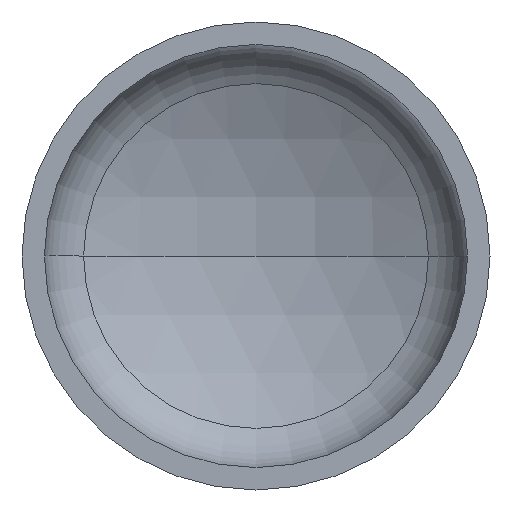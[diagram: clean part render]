
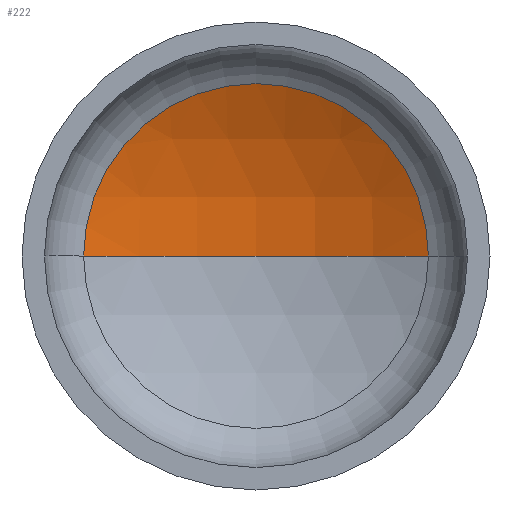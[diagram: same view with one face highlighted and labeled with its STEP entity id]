
A CAD part, front view. The second image highlights one B-rep face of the part: STEP entity #222.
In plain terms, the highlighted spherical face has radius 1600 mm.
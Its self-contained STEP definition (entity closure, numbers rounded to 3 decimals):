
#8 = EDGE_LOOP ( 'NONE', ( #88, #65, #19 ) ) ;
#11 = DIRECTION ( 'NONE',  ( -1., 0., 0. ) ) ;
#19 = ORIENTED_EDGE ( 'NONE', *, *, #152, .T. ) ;
#23 = DIRECTION ( 'NONE',  ( 1., 0., 0. ) ) ;
#47 = AXIS2_PLACEMENT_3D ( 'NONE', #261, #265, #245 ) ;
#62 = AXIS2_PLACEMENT_3D ( 'NONE', #229, #227, #228 ) ;
#63 = AXIS2_PLACEMENT_3D ( 'NONE', #213, #168, #11 ) ;
#65 = ORIENTED_EDGE ( 'NONE', *, *, #160, .T. ) ;
#66 = AXIS2_PLACEMENT_3D ( 'NONE', #276, #410, #23 ) ;
#88 = ORIENTED_EDGE ( 'NONE', *, *, #174, .F. ) ;
#114 = VERTEX_POINT ( 'NONE', #339 ) ;
#116 = VERTEX_POINT ( 'NONE', #221 ) ;
#137 = VERTEX_POINT ( 'NONE', #231 ) ;
#152 = EDGE_CURVE ( 'NONE', #114, #116, #167, .T. ) ;
#160 = EDGE_CURVE ( 'NONE', #137, #114, #224, .T. ) ;
#167 = CIRCLE ( 'NONE', #66, 736.744 ) ;
#168 = DIRECTION ( 'NONE',  ( 0., 0., -1. ) ) ;
#174 = EDGE_CURVE ( 'NONE', #137, #116, #275, .T. ) ;
#210 = FACE_OUTER_BOUND ( 'NONE', #8, .T. ) ;
#213 = CARTESIAN_POINT ( 'NONE',  ( 0., -1045.104, 0. ) ) ;
#221 = CARTESIAN_POINT ( 'NONE',  ( -736.744, 375.18, 0. ) ) ;
#222 = ADVANCED_FACE ( 'NONE', ( #210 ), #334, .F. ) ;
#224 = CIRCLE ( 'NONE', #63, 1600. ) ;
#227 = DIRECTION ( 'NONE',  ( 0., 0., 1. ) ) ;
#228 = DIRECTION ( 'NONE',  ( 1., 0., 0. ) ) ;
#229 = CARTESIAN_POINT ( 'NONE',  ( 0., -1045.104, 0. ) ) ;
#231 = CARTESIAN_POINT ( 'NONE',  ( 0., 554.896, 0. ) ) ;
#245 = DIRECTION ( 'NONE',  ( -1., 0., 0. ) ) ;
#261 = CARTESIAN_POINT ( 'NONE',  ( 0., -1045.104, 0. ) ) ;
#265 = DIRECTION ( 'NONE',  ( 0., 0., -1. ) ) ;
#275 = CIRCLE ( 'NONE', #62, 1600. ) ;
#276 = CARTESIAN_POINT ( 'NONE',  ( 0., 375.18, 0. ) ) ;
#334 = SPHERICAL_SURFACE ( 'NONE', #47, 1600. ) ;
#339 = CARTESIAN_POINT ( 'NONE',  ( 736.744, 375.18, 0. ) ) ;
#410 = DIRECTION ( 'NONE',  ( 0., -1., 0. ) ) ;
